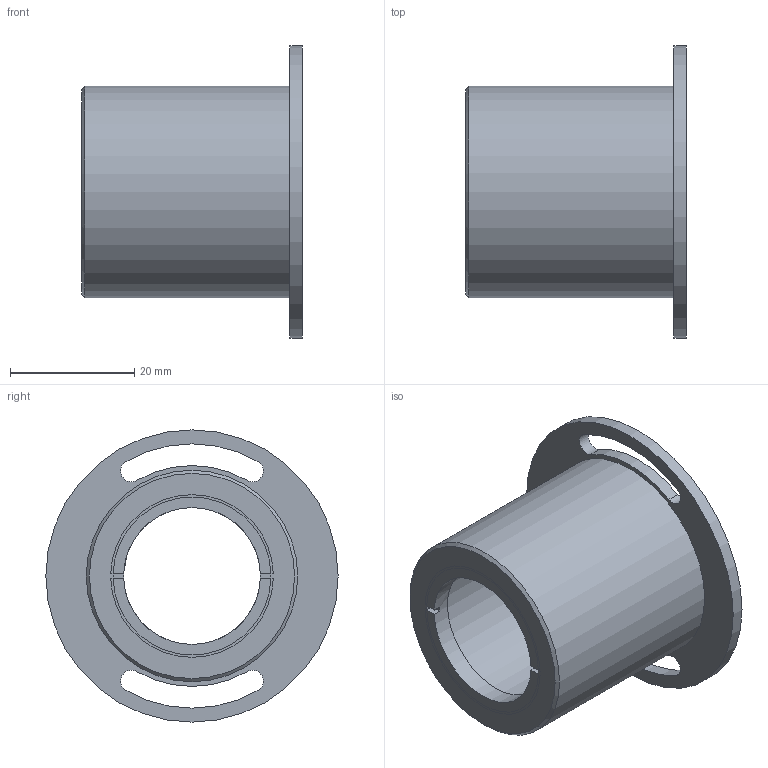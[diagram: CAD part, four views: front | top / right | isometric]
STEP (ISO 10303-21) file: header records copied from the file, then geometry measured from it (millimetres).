
FILE_DESCRIPTION(/* description */ (''),/* implementation_level */ '2;1');
FILE_NAME(/* name */ 'Y:\3DDATA\2_OpticalHard\01_国内製品\2_Holders\GTPC\GTPC-ADP\GTPC-ADP25.4-31\中間ﾌｧｲﾙ\GTPC-ADP25.4-31.stp',/* time_stamp */ '2014-07-09T18:48:13+09:00',/* author */ ('t.mukai'),/* organization */ (''),/* preprocessor_version */ 'ST-DEVELOPER v15.2',/* originating_system */ 'Autodesk Inventor 2014',/* authorisation */ '');
FILE_SCHEMA (('AUTOMOTIVE_DESIGN { 1 0 10303 214 3 1 1 }'));
Length unit declared in the file: millimetre
Products named in the file (1): GTPCADP25.4-M02-13001-ST01
Bounding box: 35.5 x 47 x 47 mm (x, y, z)
Volume: 16062.5 mm3; surface area: 9485.9 mm2
Topology: 1 solids, 1 shells, 31 faces, 75 edges, 49 vertices
Faces by surface type: plane 15, cylinder 15, cone 1
Full cylindrical faces by diameter (mm): 22 x2, 25.4 x1, 34 x1, 47 x1
Entity records: 912 total; most frequent: DIRECTION 170, CARTESIAN_POINT 146, ORIENTED_EDGE 134, AXIS2_PLACEMENT_3D 71, EDGE_CURVE 67, VERTEX_POINT 47, EDGE_LOOP 46, CIRCLE 39
